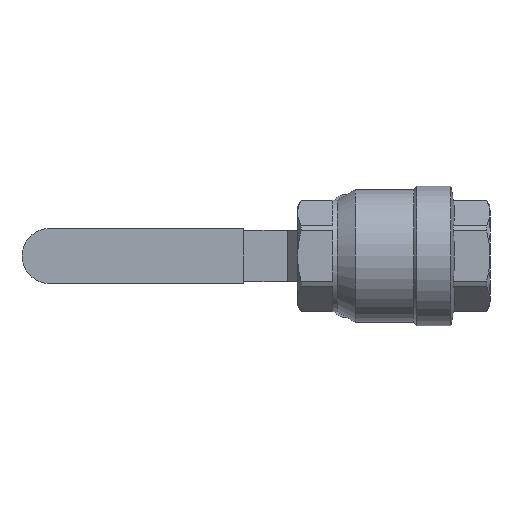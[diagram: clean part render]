
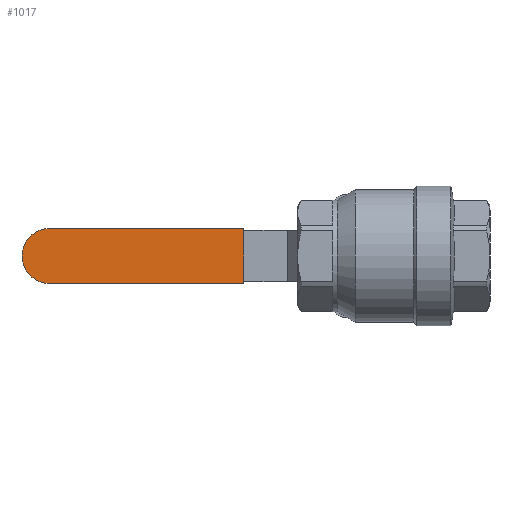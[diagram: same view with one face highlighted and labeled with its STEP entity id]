
A CAD part, front view. The second image highlights one B-rep face of the part: STEP entity #1017.
In plain terms, the highlighted planar face has unit normal (0, -1, 0).
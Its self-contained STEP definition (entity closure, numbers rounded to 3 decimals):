
#3 = PLANE ( 'NONE',  #2498 ) ;
#379 = DIRECTION ( 'NONE',  ( 0., 1., 0. ) ) ;
#470 = ORIENTED_EDGE ( 'NONE', *, *, #4613, .T. ) ;
#596 = CARTESIAN_POINT ( 'NONE',  ( -203., 90., 15. ) ) ;
#836 = DIRECTION ( 'NONE',  ( 1., 0., 0. ) ) ;
#902 = EDGE_CURVE ( 'NONE', #2370, #3024, #2909, .T. ) ;
#1017 = ADVANCED_FACE ( 'NONE', ( #1362 ), #3, .F. ) ;
#1124 = CARTESIAN_POINT ( 'NONE',  ( -188., 90., 0. ) ) ;
#1362 = FACE_OUTER_BOUND ( 'NONE', #4523, .T. ) ;
#1405 = CARTESIAN_POINT ( 'NONE',  ( -82., 90., 15. ) ) ;
#1512 = DIRECTION ( 'NONE',  ( 0., 0., 1. ) ) ;
#1791 = VERTEX_POINT ( 'NONE', #3458 ) ;
#1894 = LINE ( 'NONE', #1405, #4713 ) ;
#1968 = VERTEX_POINT ( 'NONE', #4401 ) ;
#2150 = ORIENTED_EDGE ( 'NONE', *, *, #902, .T. ) ;
#2347 = VECTOR ( 'NONE', #836, 1000. ) ;
#2370 = VERTEX_POINT ( 'NONE', #3637 ) ;
#2498 = AXIS2_PLACEMENT_3D ( 'NONE', #4427, #379, #2953 ) ;
#2909 = CIRCLE ( 'NONE', #3087, 15. ) ;
#2953 = DIRECTION ( 'NONE',  ( 0., 0., 1. ) ) ;
#3024 = VERTEX_POINT ( 'NONE', #4617 ) ;
#3087 = AXIS2_PLACEMENT_3D ( 'NONE', #1124, #3710, #1512 ) ;
#3111 = ORIENTED_EDGE ( 'NONE', *, *, #3383, .F. ) ;
#3194 = LINE ( 'NONE', #3417, #2347 ) ;
#3197 = LINE ( 'NONE', #596, #4075 ) ;
#3269 = EDGE_CURVE ( 'NONE', #2370, #1968, #3197, .T. ) ;
#3383 = EDGE_CURVE ( 'NONE', #1968, #1791, #1894, .T. ) ;
#3417 = CARTESIAN_POINT ( 'NONE',  ( -203., 90., -15. ) ) ;
#3458 = CARTESIAN_POINT ( 'NONE',  ( -82., 90., -15. ) ) ;
#3565 = DIRECTION ( 'NONE',  ( 1., 0., 0. ) ) ;
#3601 = DIRECTION ( 'NONE',  ( 0., 0., -1. ) ) ;
#3637 = CARTESIAN_POINT ( 'NONE',  ( -188., 90., 15. ) ) ;
#3710 = DIRECTION ( 'NONE',  ( 0., -1., 0. ) ) ;
#3853 = ORIENTED_EDGE ( 'NONE', *, *, #3269, .F. ) ;
#4075 = VECTOR ( 'NONE', #3565, 1000. ) ;
#4401 = CARTESIAN_POINT ( 'NONE',  ( -82., 90., 15. ) ) ;
#4427 = CARTESIAN_POINT ( 'NONE',  ( -203., 90., 15. ) ) ;
#4523 = EDGE_LOOP ( 'NONE', ( #3853, #2150, #470, #3111 ) ) ;
#4613 = EDGE_CURVE ( 'NONE', #3024, #1791, #3194, .T. ) ;
#4617 = CARTESIAN_POINT ( 'NONE',  ( -188., 90., -15. ) ) ;
#4713 = VECTOR ( 'NONE', #3601, 1000. ) ;
